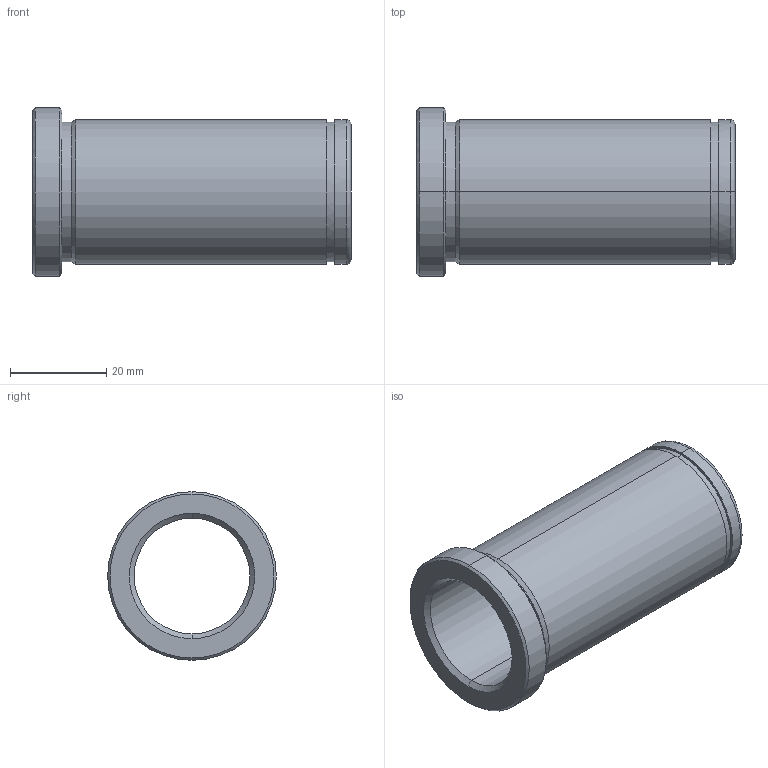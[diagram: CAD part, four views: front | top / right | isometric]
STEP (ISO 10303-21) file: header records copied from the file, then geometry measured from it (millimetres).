
FILE_DESCRIPTION(('CATIA V5 STEP Exchange'),'2;1');
FILE_NAME('C:\Users\Utente\Desktop\IO LAVORO\3D X SITO CF\X SITO\PLASTICA\553\553-24X66.stp','2021-05-25T18:21:05+00:00',('none'),('none'),'CATIA Version 5 Release 20 GA (IN-10)','CATIA V5 STEP AP203','none');
FILE_SCHEMA(('CONFIG_CONTROL_DESIGN'));
Length unit declared in the file: millimetre
Products named in the file (1): 553-24X66
Bounding box: 66 x 35 x 35 mm (x, y, z)
Volume: 18016.1 mm3; surface area: 12252.7 mm2
Topology: 1 solids, 1 shells, 29 faces, 92 edges, 68 vertices
Faces by surface type: cylinder 12, cone 8, plane 5, torus 4
Entity records: 1222 total; most frequent: CARTESIAN_POINT 368, ORIENTED_EDGE 184, DIRECTION 136, EDGE_CURVE 92, AXIS2_PLACEMENT_3D 88, VERTEX_POINT 68, CIRCLE 58, EDGE_LOOP 34
